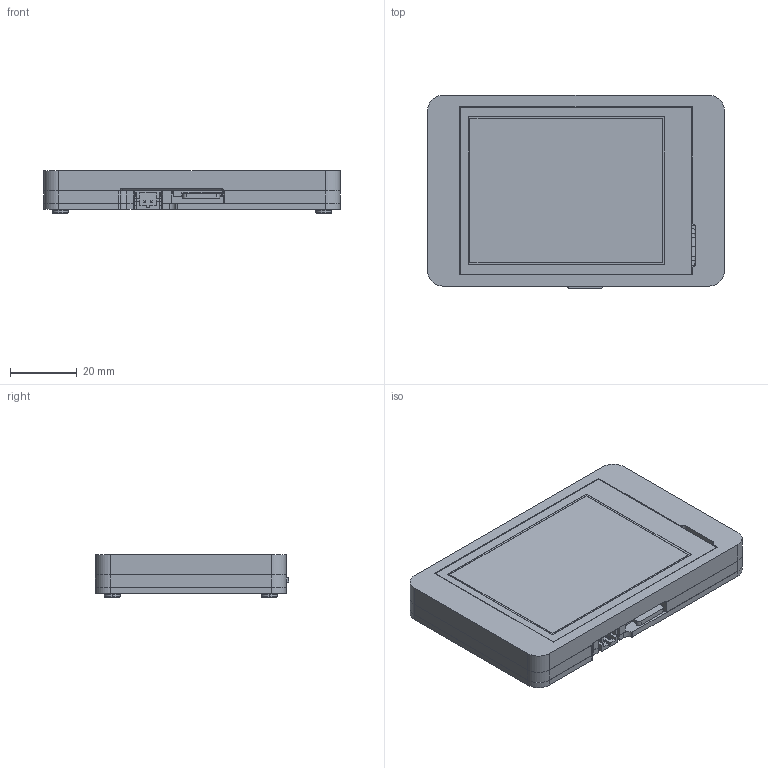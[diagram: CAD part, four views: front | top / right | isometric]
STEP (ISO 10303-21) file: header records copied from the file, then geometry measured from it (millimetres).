
FILE_DESCRIPTION((''),'2;1');
FILE_NAME('2_8IN_ASM','2024-09-18T16:47:35',('DNZJ-104'),(''),'CREO PARAMETRIC BY PTC INC, 2022164','CREO PARAMETRIC BY PTC INC, 2022164','');
FILE_SCHEMA(('CONFIG_CONTROL_DESIGN'));
Products named in the file (37): BREP_2-468; BREP_4; SPRING___1_A; BREP_1-495; BREP_2-496; _X2_56FE5757_X0__01_A_ASM; _TF___1_A_ASM; SD-CARD__2_A; BREP_1-467; BREP_3; BREP_5; BREP_6; BREP_7; BREP_8; BREP_9; BREP_10; BREP_11; BREP_12; BREP_13; BREP_14; BREP_15; BREP_16; BREP_17; BREP_18; BREP_19; BREP_20; BREP_21; BREP_22; BREP_23; BREP_24; BREP_25; BREP_26; BREP_27; DOCUMENT_A_ASM; 28-JZ; CROWPANEL_ESP32_DISPLAY-2_8-V2_; 2_8IN_ASM
Assembly tree (36 placements, depth 5):
  2_8IN_ASM
    DOCUMENT_A_ASM
      BREP_2-468
      BREP_4
      SPRING___1_A
      _TF___1_A_ASM
        _X2_56FE5757_X0__01_A_ASM
          BREP_1-495
          BREP_2-496
      SD-CARD__2_A
      BREP_1-467
      BREP_3
      BREP_5
      BREP_6
      BREP_7
      BREP_8
      BREP_9
      BREP_10
      BREP_11
      BREP_12
      BREP_13
      BREP_14
      BREP_15
      BREP_16
      BREP_17
      BREP_18
      BREP_19
      BREP_20
      BREP_21
      BREP_22
      BREP_23
      BREP_24
      BREP_25
      BREP_26
      BREP_27
    28-JZ
    CROWPANEL_ESP32_DISPLAY-2_8-V2_
Bounding box: 88.7 x 57.75 x 12.67 mm (x, y, z)
Volume: 32628.8 mm3; surface area: 48975.3 mm2
Topology: 31 solids, 70 shells, 3459 faces, 9884 edges, 6514 vertices
Faces by surface type: plane 2576, cylinder 704, bspline 104, revolution 28, torus 21, cone 11, extrusion 9, sphere 6
Entity records: 117565 total; most frequent: CARTESIAN_POINT 26278, ORIENTED_EDGE 19552, DIRECTION 17797, EDGE_CURVE 9876, VECTOR 7975, LINE 7966, VERTEX_POINT 6514, AXIS2_PLACEMENT_3D 4897
